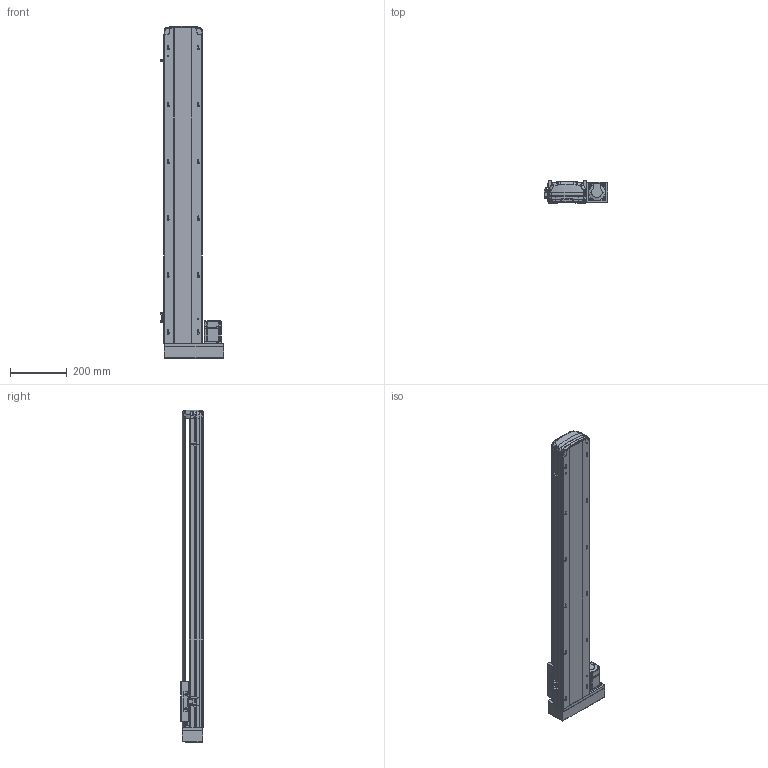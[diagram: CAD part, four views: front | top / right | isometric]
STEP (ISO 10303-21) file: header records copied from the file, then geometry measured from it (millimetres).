
FILE_DESCRIPTION (( 'STEP AP214' ), '1' );
FILE_NAME ('RTH14-XX-900-R-M20-C4.STEP', '2025-10-24T09:57:17', ( 'Microsoft' ), ( 'Microsoft' ), 'SwSTEP 2.0', 'SolidWorks 2018', '' );
FILE_SCHEMA (( 'AUTOMOTIVE_DESIGN' ));
Length unit declared in the file: millimetre
Products named in the file (10): N_RTH14-M-007P奻裔^RTH14-XX-XX-R-M20-C4; N_RTH14-GY-001P^RTH14-XX-XX-R-M20-C4; N_RTH13-L-008-P20 萇儂啣酘蛌殏^RTH14-XX-XX-R-M20-C4; N_MSMD022P1AA_200W^RTH14-XX-XX-R-M20-C4; N_RTH13-L-018 裔赽^RTH14-XX-XX-R-M20-C4; N_OMRON EE-SX672 传感器^RTH14-XX-XX-R-M20-C4; N_RTH13-L-012感应片（外置）^RTH14-XX-XX-R-M20-C4; N_RTH14-M-011P菁釱^RTH14-XX-XX-R-M20-C4; N_RTH14-R-004-SFSR16賑釱^RTH14-XX-XX-R-M20-C4; RTH14-XX-900-R-M20-C4
Assembly tree (11 placements, depth 2):
  RTH14-XX-900-R-M20-C4
    N_RTH14-M-011P菁釱^RTH14-XX-XX-R-M20-C4
    N_RTH14-M-007P奻裔^RTH14-XX-XX-R-M20-C4
    N_MSMD022P1AA_200W^RTH14-XX-XX-R-M20-C4
    N_RTH13-L-008-P20 萇儂啣酘蛌殏^RTH14-XX-XX-R-M20-C4
    N_RTH13-L-018 裔赽^RTH14-XX-XX-R-M20-C4
    N_RTH13-L-012感应片（外置）^RTH14-XX-XX-R-M20-C4
    N_OMRON EE-SX672 传感器^RTH14-XX-XX-R-M20-C4  x3
    N_RTH14-R-004-SFSR16賑釱^RTH14-XX-XX-R-M20-C4
    N_RTH14-GY-001P^RTH14-XX-XX-R-M20-C4
Bounding box: 224 x 78.03 x 1167.73 mm (x, y, z)
Volume: 5055051.3 mm3; surface area: 1178486.6 mm2
Topology: 10 solids, 12 shells, 1883 faces, 5272 edges, 3457 vertices
Faces by surface type: plane 991, cylinder 497, bspline 346, cone 45, torus 4
Entity records: 57679 total; most frequent: CARTESIAN_POINT 23227, ORIENTED_EDGE 7601, DIRECTION 6114, EDGE_CURVE 3806, VERTEX_POINT 2493, LINE 2168, VECTOR 2168, AXIS2_PLACEMENT_3D 1973
